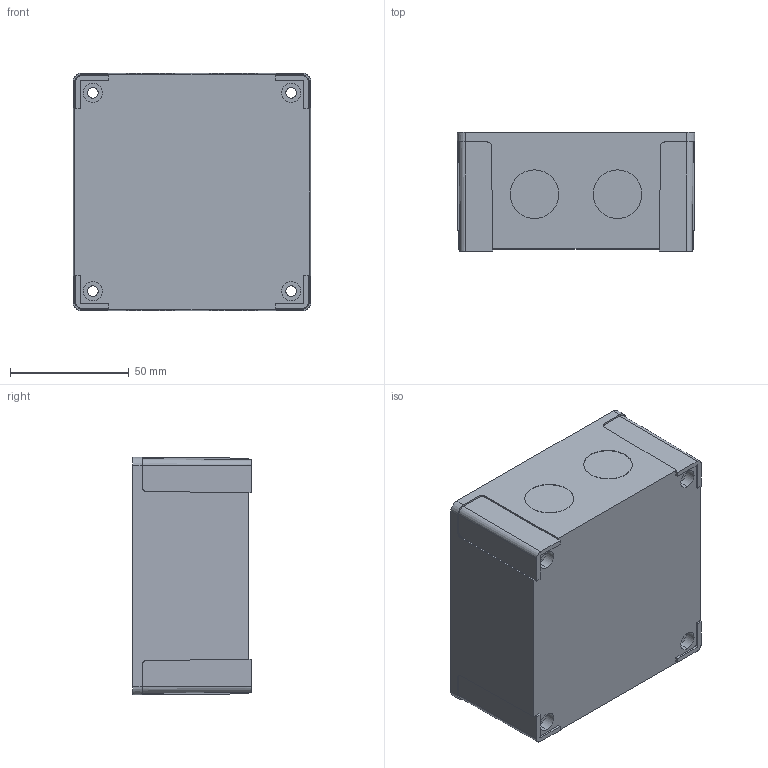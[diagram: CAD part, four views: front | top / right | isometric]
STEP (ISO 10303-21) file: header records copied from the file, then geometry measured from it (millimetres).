
FILE_DESCRIPTION (( 'STEP AP203' ), '1' );
FILE_NAME ('FIBOX_MNXPCM95B.STEP', '2005-06-30T10:03:34', ( ' ' ), ( ' ' ), 'SwSTEP 2.0', 'SolidWorks 2005143', '' );
FILE_SCHEMA (( 'CONFIG_CONTROL_DESIGN' ));
Length unit declared in the file: millimetre
Products named in the file (1): FIBOX_MNXPCM95B
Bounding box: 100.1 x 50 x 100.1 mm (x, y, z)
Volume: 121747.1 mm3; surface area: 63559.4 mm2
Topology: 1 solids, 1 shells, 326 faces, 801 edges, 534 vertices
Faces by surface type: plane 174, cylinder 132, cone 20
Entity records: 9858 total; most frequent: CARTESIAN_POINT 1806, DIRECTION 1719, ORIENTED_EDGE 1602, EDGE_CURVE 801, AXIS2_PLACEMENT_3D 623, VERTEX_POINT 534, VECTOR 473, LINE 473
